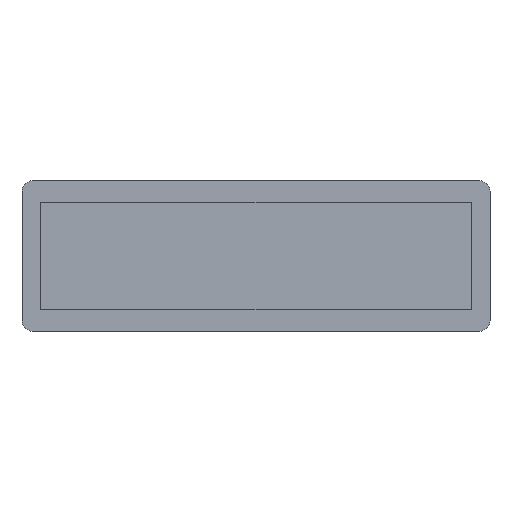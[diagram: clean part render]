
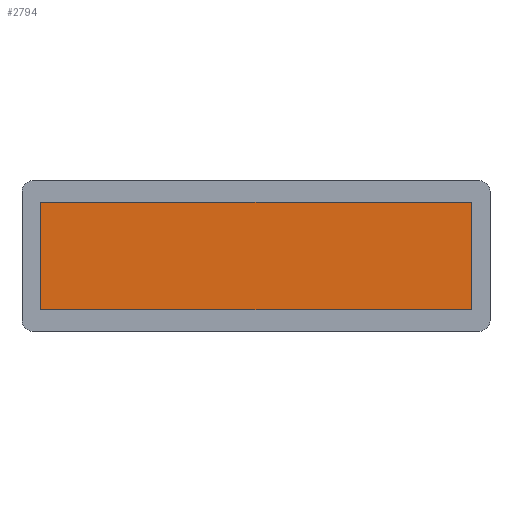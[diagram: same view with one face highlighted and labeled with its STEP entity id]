
A CAD part, front view. The second image highlights one B-rep face of the part: STEP entity #2794.
In plain terms, the highlighted planar face has unit normal (0, -1, 0).
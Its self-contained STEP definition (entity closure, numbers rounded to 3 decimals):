
#445 = EDGE_CURVE ( 'NONE', #6783, #2298, #2860, .T. ) ;
#993 = DIRECTION ( 'NONE',  ( 1., 0., 0. ) ) ;
#1020 = LINE ( 'NONE', #7673, #1512 ) ;
#1292 = LINE ( 'NONE', #2594, #5761 ) ;
#1350 = DIRECTION ( 'NONE',  ( 0., 0., -1. ) ) ;
#1512 = VECTOR ( 'NONE', #4677, 1000. ) ;
#2044 = EDGE_CURVE ( 'NONE', #2310, #6216, #1020, .T. ) ;
#2250 = LINE ( 'NONE', #2855, #7758 ) ;
#2255 = CARTESIAN_POINT ( 'NONE',  ( -600., -416.5, -150. ) ) ;
#2270 = ORIENTED_EDGE ( 'NONE', *, *, #2901, .T. ) ;
#2298 = VERTEX_POINT ( 'NONE', #7084 ) ;
#2310 = VERTEX_POINT ( 'NONE', #4396 ) ;
#2594 = CARTESIAN_POINT ( 'NONE',  ( 600., -416.5, 150. ) ) ;
#2789 = ORIENTED_EDGE ( 'NONE', *, *, #2044, .T. ) ;
#2794 = ADVANCED_FACE ( 'NONE', ( #7244 ), #3507, .T. ) ;
#2855 = CARTESIAN_POINT ( 'NONE',  ( 600., -416.5, -150. ) ) ;
#2860 = LINE ( 'NONE', #2255, #5474 ) ;
#2901 = EDGE_CURVE ( 'NONE', #2298, #2310, #2250, .T. ) ;
#2919 = EDGE_LOOP ( 'NONE', ( #7503, #2270, #2789, #3773 ) ) ;
#3162 = CARTESIAN_POINT ( 'NONE',  ( -600., -416.5, 150. ) ) ;
#3334 = AXIS2_PLACEMENT_3D ( 'NONE', #6634, #4160, #4117 ) ;
#3507 = PLANE ( 'NONE',  #3334 ) ;
#3773 = ORIENTED_EDGE ( 'NONE', *, *, #6787, .T. ) ;
#4117 = DIRECTION ( 'NONE',  ( 0., 0., -1. ) ) ;
#4160 = DIRECTION ( 'NONE',  ( 0., -1., 0. ) ) ;
#4396 = CARTESIAN_POINT ( 'NONE',  ( 600., -416.5, -150. ) ) ;
#4677 = DIRECTION ( 'NONE',  ( 0., 0., 1. ) ) ;
#5474 = VECTOR ( 'NONE', #1350, 1000. ) ;
#5761 = VECTOR ( 'NONE', #7544, 1000. ) ;
#6216 = VERTEX_POINT ( 'NONE', #7368 ) ;
#6634 = CARTESIAN_POINT ( 'NONE',  ( 0., -416.5, 0. ) ) ;
#6783 = VERTEX_POINT ( 'NONE', #3162 ) ;
#6787 = EDGE_CURVE ( 'NONE', #6216, #6783, #1292, .T. ) ;
#7084 = CARTESIAN_POINT ( 'NONE',  ( -600., -416.5, -150. ) ) ;
#7244 = FACE_OUTER_BOUND ( 'NONE', #2919, .T. ) ;
#7368 = CARTESIAN_POINT ( 'NONE',  ( 600., -416.5, 150. ) ) ;
#7503 = ORIENTED_EDGE ( 'NONE', *, *, #445, .T. ) ;
#7544 = DIRECTION ( 'NONE',  ( -1., 0., 0. ) ) ;
#7673 = CARTESIAN_POINT ( 'NONE',  ( 600., -416.5, -150. ) ) ;
#7758 = VECTOR ( 'NONE', #993, 1000. ) ;
